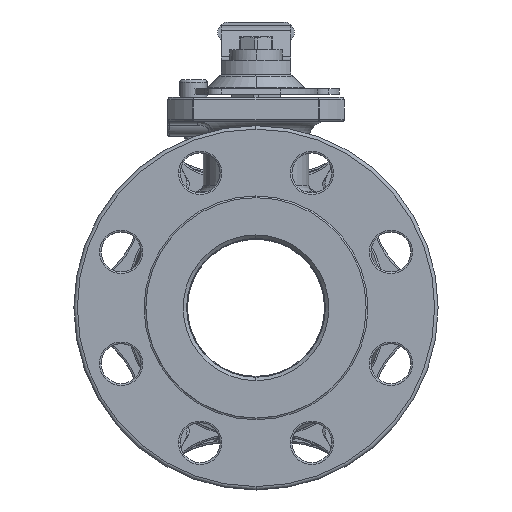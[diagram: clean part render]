
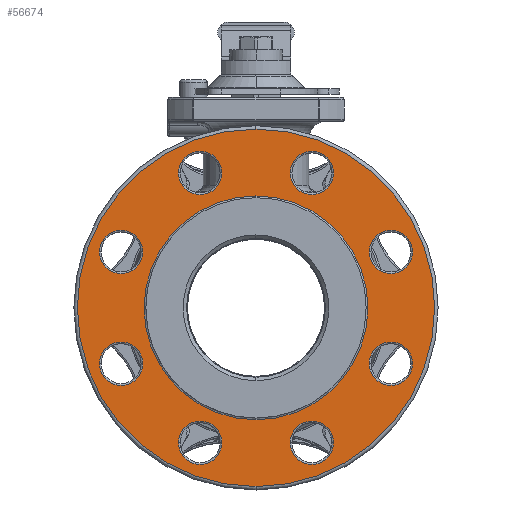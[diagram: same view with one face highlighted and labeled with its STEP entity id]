
A CAD part, left-side view. The second image highlights one B-rep face of the part: STEP entity #56674.
In plain terms, the highlighted planar face has unit normal (-1, 0, 0).
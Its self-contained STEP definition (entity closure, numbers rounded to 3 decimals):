
#3215=CARTESIAN_POINT('',(-125.4,0.,0.));
#3216=DIRECTION('',(-1.,0.,0.));
#3217=DIRECTION('',(0.,0.,1.));
#3218=AXIS2_PLACEMENT_3D('',#3215,#3216,#3217);
#3235=CARTESIAN_POINT('',(-125.4,0.,0.));
#3236=DIRECTION('',(1.,0.,0.));
#3237=DIRECTION('',(0.,0.,-1.));
#3238=AXIS2_PLACEMENT_3D('',#3235,#3236,#3237);
#3258=CARTESIAN_POINT('',(-125.4,0.,0.));
#3259=DIRECTION('',(1.,0.,0.));
#3260=DIRECTION('',(0.,0.,1.));
#3261=AXIS2_PLACEMENT_3D('',#3258,#3259,#3260);
#37804=CARTESIAN_POINT('',(-125.4,77.744,32.203));
#37805=DIRECTION('',(1.,0.,0.));
#37806=DIRECTION('',(0.,-1.,0.));
#37807=AXIS2_PLACEMENT_3D('',#37804,#37805,#37806);
#37819=CARTESIAN_POINT('',(-125.4,77.744,32.203));
#37820=DIRECTION('',(1.,0.,0.));
#37821=DIRECTION('',(0.,1.,0.));
#37822=AXIS2_PLACEMENT_3D('',#37819,#37820,#37821);
#37872=CARTESIAN_POINT('',(-125.4,32.203,77.744));
#37873=DIRECTION('',(1.,0.,0.));
#37874=DIRECTION('',(0.,1.,0.));
#37875=AXIS2_PLACEMENT_3D('',#37872,#37873,#37874);
#37887=CARTESIAN_POINT('',(-125.4,32.203,77.744));
#37888=DIRECTION('',(1.,0.,0.));
#37889=DIRECTION('',(0.,-1.,0.));
#37890=AXIS2_PLACEMENT_3D('',#37887,#37888,#37889);
#37940=CARTESIAN_POINT('',(-125.4,-32.203,77.744));
#37941=DIRECTION('',(1.,0.,0.));
#37942=DIRECTION('',(0.,1.,0.));
#37943=AXIS2_PLACEMENT_3D('',#37940,#37941,#37942);
#37955=CARTESIAN_POINT('',(-125.4,-32.203,77.744));
#37956=DIRECTION('',(1.,0.,0.));
#37957=DIRECTION('',(0.,-1.,0.));
#37958=AXIS2_PLACEMENT_3D('',#37955,#37956,#37957);
#38008=CARTESIAN_POINT('',(-125.4,-77.744,32.203));
#38009=DIRECTION('',(1.,0.,0.));
#38010=DIRECTION('',(0.,1.,0.));
#38011=AXIS2_PLACEMENT_3D('',#38008,#38009,#38010);
#38023=CARTESIAN_POINT('',(-125.4,-77.744,32.203));
#38024=DIRECTION('',(1.,0.,0.));
#38025=DIRECTION('',(0.,-1.,0.));
#38026=AXIS2_PLACEMENT_3D('',#38023,#38024,#38025);
#38076=CARTESIAN_POINT('',(-125.4,-77.744,-32.203));
#38077=DIRECTION('',(1.,0.,0.));
#38078=DIRECTION('',(0.,-1.,0.));
#38079=AXIS2_PLACEMENT_3D('',#38076,#38077,#38078);
#38091=CARTESIAN_POINT('',(-125.4,-77.744,-32.203));
#38092=DIRECTION('',(1.,0.,0.));
#38093=DIRECTION('',(0.,1.,0.));
#38094=AXIS2_PLACEMENT_3D('',#38091,#38092,#38093);
#38148=CARTESIAN_POINT('',(-125.4,-32.203,-77.744));
#38149=DIRECTION('',(1.,0.,0.));
#38150=DIRECTION('',(0.,-1.,0.));
#38151=AXIS2_PLACEMENT_3D('',#38148,#38149,#38150);
#38163=CARTESIAN_POINT('',(-125.4,-32.203,-77.744));
#38164=DIRECTION('',(1.,0.,0.));
#38165=DIRECTION('',(0.,1.,0.));
#38166=AXIS2_PLACEMENT_3D('',#38163,#38164,#38165);
#38216=CARTESIAN_POINT('',(-125.4,32.203,-77.744));
#38217=DIRECTION('',(1.,0.,0.));
#38218=DIRECTION('',(0.,1.,0.));
#38219=AXIS2_PLACEMENT_3D('',#38216,#38217,#38218);
#38231=CARTESIAN_POINT('',(-125.4,32.203,-77.744));
#38232=DIRECTION('',(1.,0.,0.));
#38233=DIRECTION('',(0.,-1.,0.));
#38234=AXIS2_PLACEMENT_3D('',#38231,#38232,#38233);
#38280=CARTESIAN_POINT('',(-125.4,77.744,-32.203));
#38281=DIRECTION('',(1.,0.,0.));
#38282=DIRECTION('',(0.,-1.,0.));
#38283=AXIS2_PLACEMENT_3D('',#38280,#38281,#38282);
#38295=CARTESIAN_POINT('',(-125.4,77.744,-32.203));
#38296=DIRECTION('',(1.,0.,0.));
#38297=DIRECTION('',(0.,1.,0.));
#38298=AXIS2_PLACEMENT_3D('',#38295,#38296,#38297);
#38314=CARTESIAN_POINT('',(-125.4,0.,0.));
#38315=DIRECTION('',(-1.,0.,0.));
#38316=DIRECTION('',(0.,0.,-1.));
#38317=AXIS2_PLACEMENT_3D('',#38314,#38315,#38316);
#43476=CARTESIAN_POINT('',(-125.4,0.,-103.));
#43477=CARTESIAN_POINT('',(-125.4,0.,103.));
#43478=VERTEX_POINT('',#43476);
#43479=VERTEX_POINT('',#43477);
#43488=CARTESIAN_POINT('',(-125.4,90.244,32.203));
#43489=CARTESIAN_POINT('',(-125.4,65.244,32.203));
#43490=VERTEX_POINT('',#43488);
#43491=VERTEX_POINT('',#43489);
#43504=CARTESIAN_POINT('',(-125.4,19.703,77.744));
#43505=CARTESIAN_POINT('',(-125.4,44.703,77.744));
#43506=VERTEX_POINT('',#43504);
#43507=VERTEX_POINT('',#43505);
#43520=CARTESIAN_POINT('',(-125.4,-44.703,77.744));
#43521=CARTESIAN_POINT('',(-125.4,-19.703,77.744));
#43522=VERTEX_POINT('',#43520);
#43523=VERTEX_POINT('',#43521);
#43536=CARTESIAN_POINT('',(-125.4,-90.244,32.203));
#43537=CARTESIAN_POINT('',(-125.4,-65.244,32.203));
#43538=VERTEX_POINT('',#43536);
#43539=VERTEX_POINT('',#43537);
#43552=CARTESIAN_POINT('',(-125.4,-90.244,-32.203));
#43553=CARTESIAN_POINT('',(-125.4,-65.244,-32.203));
#43554=VERTEX_POINT('',#43552);
#43555=VERTEX_POINT('',#43553);
#43576=CARTESIAN_POINT('',(-125.4,-19.703,-77.744));
#43577=CARTESIAN_POINT('',(-125.4,-44.703,-77.744));
#43578=VERTEX_POINT('',#43576);
#43579=VERTEX_POINT('',#43577);
#43592=CARTESIAN_POINT('',(-125.4,44.703,-77.744));
#43593=CARTESIAN_POINT('',(-125.4,19.703,-77.744));
#43594=VERTEX_POINT('',#43592);
#43595=VERTEX_POINT('',#43593);
#43600=CARTESIAN_POINT('',(-125.4,90.244,-32.203));
#43601=CARTESIAN_POINT('',(-125.4,65.244,-32.203));
#43602=VERTEX_POINT('',#43600);
#43603=VERTEX_POINT('',#43601);
#44104=CARTESIAN_POINT('',(-125.4,0.,-64.5));
#44105=CARTESIAN_POINT('',(-125.4,0.,64.5));
#44106=VERTEX_POINT('',#44104);
#44107=VERTEX_POINT('',#44105);
#56610=CARTESIAN_POINT('',(-125.4,0.,0.));
#56611=DIRECTION('',(-1.,0.,0.));
#56612=DIRECTION('',(0.,0.,1.));
#56613=AXIS2_PLACEMENT_3D('',#56610,#56611,#56612);
#56614=PLANE('',#56613);
#56616=ORIENTED_EDGE('',*,*,#56615,.T.);
#56618=ORIENTED_EDGE('',*,*,#56617,.T.);
#56619=EDGE_LOOP('',(#56616,#56618));
#56620=FACE_OUTER_BOUND('',#56619,.F.);
#56622=ORIENTED_EDGE('',*,*,#56621,.T.);
#56623=ORIENTED_EDGE('',*,*,#56600,.T.);
#56624=EDGE_LOOP('',(#56622,#56623));
#56625=FACE_BOUND('',#56624,.F.);
#56627=ORIENTED_EDGE('',*,*,#56626,.F.);
#56629=ORIENTED_EDGE('',*,*,#56628,.F.);
#56630=EDGE_LOOP('',(#56627,#56629));
#56631=FACE_BOUND('',#56630,.F.);
#56633=ORIENTED_EDGE('',*,*,#56632,.F.);
#56635=ORIENTED_EDGE('',*,*,#56634,.F.);
#56636=EDGE_LOOP('',(#56633,#56635));
#56637=FACE_BOUND('',#56636,.F.);
#56639=ORIENTED_EDGE('',*,*,#56638,.F.);
#56641=ORIENTED_EDGE('',*,*,#56640,.F.);
#56642=EDGE_LOOP('',(#56639,#56641));
#56643=FACE_BOUND('',#56642,.F.);
#56645=ORIENTED_EDGE('',*,*,#56644,.F.);
#56647=ORIENTED_EDGE('',*,*,#56646,.F.);
#56648=EDGE_LOOP('',(#56645,#56647));
#56649=FACE_BOUND('',#56648,.F.);
#56651=ORIENTED_EDGE('',*,*,#56650,.F.);
#56653=ORIENTED_EDGE('',*,*,#56652,.F.);
#56654=EDGE_LOOP('',(#56651,#56653));
#56655=FACE_BOUND('',#56654,.F.);
#56657=ORIENTED_EDGE('',*,*,#56656,.F.);
#56659=ORIENTED_EDGE('',*,*,#56658,.F.);
#56660=EDGE_LOOP('',(#56657,#56659));
#56661=FACE_BOUND('',#56660,.F.);
#56663=ORIENTED_EDGE('',*,*,#56662,.F.);
#56665=ORIENTED_EDGE('',*,*,#56664,.F.);
#56666=EDGE_LOOP('',(#56663,#56665));
#56667=FACE_BOUND('',#56666,.F.);
#56669=ORIENTED_EDGE('',*,*,#56668,.F.);
#56671=ORIENTED_EDGE('',*,*,#56670,.F.);
#56672=EDGE_LOOP('',(#56669,#56671));
#56673=FACE_BOUND('',#56672,.F.);
#56674=ADVANCED_FACE('',(#56620,#56625,#56631,#56637,#56643,#56649,#56655,
#56661,#56667,#56673),#56614,.T.);
#3219=CIRCLE('',#3218,64.5);
#3239=CIRCLE('',#3238,103.);
#3262=CIRCLE('',#3261,103.);
#37808=CIRCLE('',#37807,12.5);
#37823=CIRCLE('',#37822,12.5);
#37876=CIRCLE('',#37875,12.5);
#37891=CIRCLE('',#37890,12.5);
#37944=CIRCLE('',#37943,12.5);
#37959=CIRCLE('',#37958,12.5);
#38012=CIRCLE('',#38011,12.5);
#38027=CIRCLE('',#38026,12.5);
#38080=CIRCLE('',#38079,12.5);
#38095=CIRCLE('',#38094,12.5);
#38152=CIRCLE('',#38151,12.5);
#38167=CIRCLE('',#38166,12.5);
#38220=CIRCLE('',#38219,12.5);
#38235=CIRCLE('',#38234,12.5);
#38284=CIRCLE('',#38283,12.5);
#38299=CIRCLE('',#38298,12.5);
#38318=CIRCLE('',#38317,64.5);
#56600=EDGE_CURVE('',#44107,#44106,#3219,.T.);
#56615=EDGE_CURVE('',#43478,#43479,#3239,.T.);
#56617=EDGE_CURVE('',#43479,#43478,#3262,.T.);
#56621=EDGE_CURVE('',#44106,#44107,#38318,.T.);
#56626=EDGE_CURVE('',#43490,#43491,#37823,.T.);
#56628=EDGE_CURVE('',#43491,#43490,#37808,.T.);
#56632=EDGE_CURVE('',#43506,#43507,#37891,.T.);
#56634=EDGE_CURVE('',#43507,#43506,#37876,.T.);
#56638=EDGE_CURVE('',#43522,#43523,#37959,.T.);
#56640=EDGE_CURVE('',#43523,#43522,#37944,.T.);
#56644=EDGE_CURVE('',#43538,#43539,#38027,.T.);
#56646=EDGE_CURVE('',#43539,#43538,#38012,.T.);
#56650=EDGE_CURVE('',#43554,#43555,#38080,.T.);
#56652=EDGE_CURVE('',#43555,#43554,#38095,.T.);
#56656=EDGE_CURVE('',#43578,#43579,#38167,.T.);
#56658=EDGE_CURVE('',#43579,#43578,#38152,.T.);
#56662=EDGE_CURVE('',#43594,#43595,#38220,.T.);
#56664=EDGE_CURVE('',#43595,#43594,#38235,.T.);
#56668=EDGE_CURVE('',#43602,#43603,#38299,.T.);
#56670=EDGE_CURVE('',#43603,#43602,#38284,.T.);
